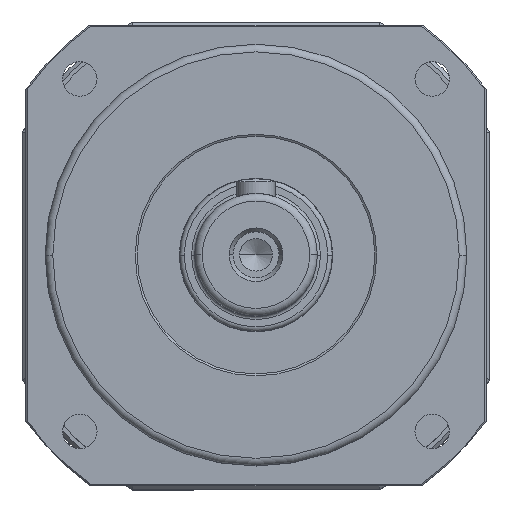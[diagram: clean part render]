
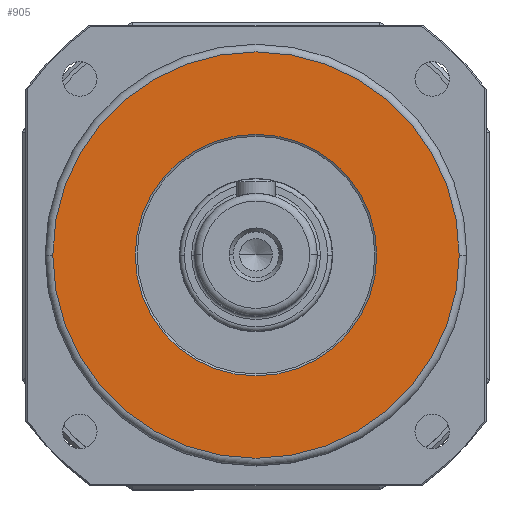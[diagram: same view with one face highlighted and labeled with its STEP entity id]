
A CAD part, top view. The second image highlights one B-rep face of the part: STEP entity #905.
In plain terms, the highlighted planar face has unit normal (0, 0, 1).
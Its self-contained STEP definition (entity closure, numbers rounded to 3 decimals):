
#905 = ADVANCED_FACE ( 'NONE', ( #4056, #4057 ), #5840, .T. ) ;
#1665 = CIRCLE ( 'NONE', #1666, 31.5 ) ;
#1666 = AXIS2_PLACEMENT_3D ( 'NONE', #8344, #8345, #8346 ) ;
#1667 = CIRCLE ( 'NONE', #1673, 53. ) ;
#1673 = AXIS2_PLACEMENT_3D ( 'NONE', #8355, #8356, #8357 ) ;
#2171 = ORIENTED_EDGE ( 'NONE', *, *, #3951, .T. ) ;
#2173 = ORIENTED_EDGE ( 'NONE', *, *, #9582, .T. ) ;
#2174 = ORIENTED_EDGE ( 'NONE', *, *, #9583, .T. ) ;
#2175 = ORIENTED_EDGE ( 'NONE', *, *, #3955, .T. ) ;
#3002 = VERTEX_POINT ( 'NONE', #14006 ) ;
#3003 = VERTEX_POINT ( 'NONE', #14008 ) ;
#3006 = VERTEX_POINT ( 'NONE', #14013 ) ;
#3007 = VERTEX_POINT ( 'NONE', #14015 ) ;
#3951 = EDGE_CURVE ( 'NONE', #3006, #3007, #1665, .T. ) ;
#3955 = EDGE_CURVE ( 'NONE', #3002, #3003, #1667, .T. ) ;
#4056 = FACE_BOUND ( 'NONE', #7258, .T. ) ;
#4057 = FACE_OUTER_BOUND ( 'NONE', #7259, .T. ) ;
#4693 = AXIS2_PLACEMENT_3D ( 'NONE', #5841, #5842, #5843 ) ;
#5840 = PLANE ( 'NONE',  #4693 ) ;
#5841 = CARTESIAN_POINT ( 'NONE',  ( 0., 0., 12. ) ) ;
#5842 = DIRECTION ( 'NONE',  ( 0., 0., 1. ) ) ;
#5843 = DIRECTION ( 'NONE',  ( 1., 0., 0. ) ) ;
#7258 = EDGE_LOOP ( 'NONE', ( #2171, #2173 ) ) ;
#7259 = EDGE_LOOP ( 'NONE', ( #2175, #2174 ) ) ;
#7742 = CARTESIAN_POINT ( 'NONE',  ( 0., 0., 12. ) ) ;
#7743 = DIRECTION ( 'NONE',  ( 0., 0., -1. ) ) ;
#7744 = DIRECTION ( 'NONE',  ( 1., 0., 0. ) ) ;
#7745 = CARTESIAN_POINT ( 'NONE',  ( 0., 0., 12. ) ) ;
#7746 = DIRECTION ( 'NONE',  ( 0., 0., 1. ) ) ;
#7747 = DIRECTION ( 'NONE',  ( 1., 0., 0. ) ) ;
#8344 = CARTESIAN_POINT ( 'NONE',  ( 0., 0., 12. ) ) ;
#8345 = DIRECTION ( 'NONE',  ( 0., 0., -1. ) ) ;
#8346 = DIRECTION ( 'NONE',  ( 1., 0., 0. ) ) ;
#8355 = CARTESIAN_POINT ( 'NONE',  ( 0., 0., 12. ) ) ;
#8356 = DIRECTION ( 'NONE',  ( 0., 0., 1. ) ) ;
#8357 = DIRECTION ( 'NONE',  ( 1., 0., 0. ) ) ;
#9582 = EDGE_CURVE ( 'NONE', #3007, #3006, #14290, .T. ) ;
#9583 = EDGE_CURVE ( 'NONE', #3003, #3002, #14287, .T. ) ;
#14006 = CARTESIAN_POINT ( 'NONE',  ( 53., 0., 12. ) ) ;
#14008 = CARTESIAN_POINT ( 'NONE',  ( -53., 0., 12. ) ) ;
#14013 = CARTESIAN_POINT ( 'NONE',  ( 31.5, 0., 12. ) ) ;
#14015 = CARTESIAN_POINT ( 'NONE',  ( -31.5, 0., 12. ) ) ;
#14287 = CIRCLE ( 'NONE', #14294, 53. ) ;
#14290 = CIRCLE ( 'NONE', #14292, 31.5 ) ;
#14292 = AXIS2_PLACEMENT_3D ( 'NONE', #7742, #7743, #7744 ) ;
#14294 = AXIS2_PLACEMENT_3D ( 'NONE', #7745, #7746, #7747 ) ;
